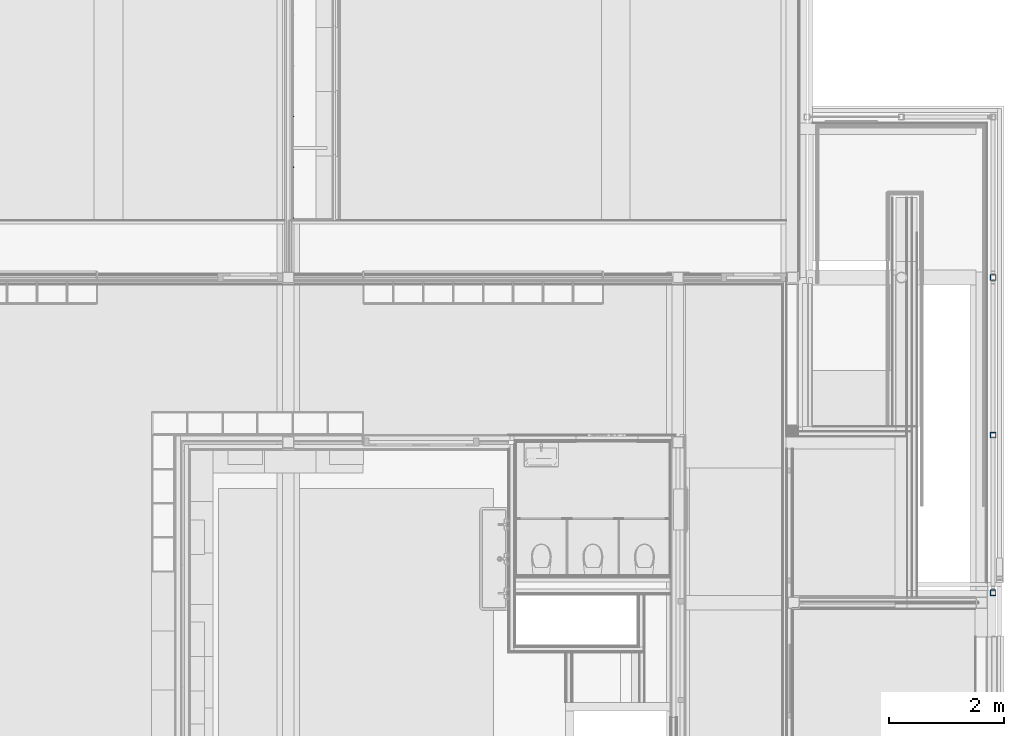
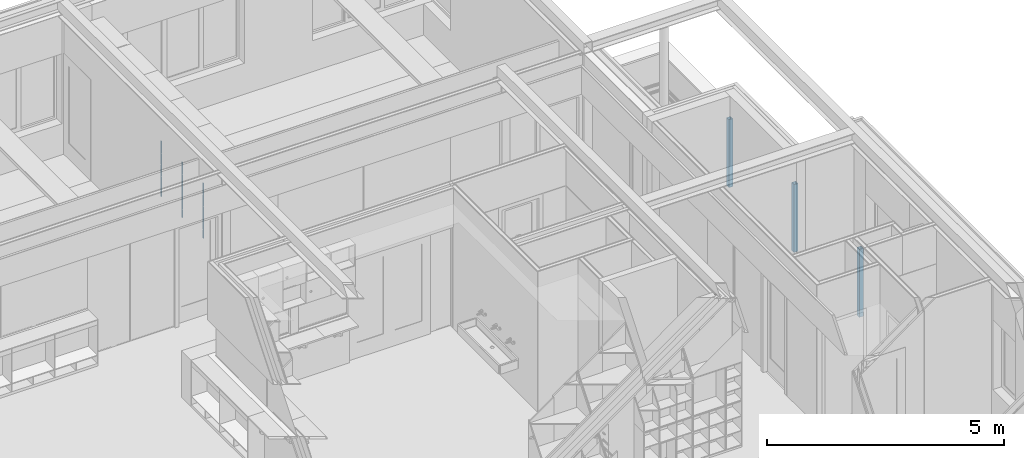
# One storey, part 10 of 137: 6 columns.
"""IFC2X3 building model written with IfcOpenShell, lengths in millimetres."""

from ifc_helpers import new_model, entity, si_unit, converted_unit, derived_unit, money_unit, direction, frame, origin_with_axes, place, context, subcontext, project, spatial, faceted_brep, material, type_object, element, save


model = new_model("IFC2X3")

# Units and contexts
model_context = context("Model", 3, precision=0.01, world=origin_with_axes(), true_north=direction((0.0, 1.0)))
body_context = subcontext(model_context, "Body", "Model", "MODEL_VIEW")
ifc_project = project(units=[si_unit("LENGTHUNIT", "METRE", prefix="MILLI"), si_unit("AREAUNIT", "SQUARE_METRE"), si_unit("VOLUMEUNIT", "CUBIC_METRE"), converted_unit("PLANEANGLEUNIT", "DEGREE", entity("IfcPlaneAngleMeasure", 0.0174532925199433), si_unit("PLANEANGLEUNIT", "RADIAN"), dimensions=[0, 0, 0, 0, 0, 0, 0]), money_unit("EUR"), converted_unit("TIMEUNIT", "Year", entity("IfcTimeMeasure", 31556926.0), si_unit("TIMEUNIT", "SECOND"), dimensions=[0, 0, 1, 0, 0, 0, 0]), si_unit("MASSUNIT", "GRAM", prefix="KILO"), si_unit("THERMODYNAMICTEMPERATUREUNIT", "DEGREE_CELSIUS"), si_unit("LUMINOUSINTENSITYUNIT", "LUMEN"), si_unit("ENERGYUNIT", "JOULE", prefix="MEGA"), derived_unit("THERMALCONDUCTANCEUNIT", [(si_unit("POWERUNIT", "WATT"), 1), (si_unit("LENGTHUNIT", "METRE"), -1), (si_unit("THERMODYNAMICTEMPERATUREUNIT", "KELVIN"), -1)]), derived_unit("SPECIFICHEATCAPACITYUNIT", [(si_unit("ENERGYUNIT", "JOULE"), 1), (si_unit("MASSUNIT", "GRAM", prefix="KILO"), -1), (si_unit("THERMODYNAMICTEMPERATUREUNIT", "KELVIN"), -1)]), derived_unit("MASSDENSITYUNIT", [(si_unit("MASSUNIT", "GRAM", prefix="KILO"), 1), (si_unit("VOLUMEUNIT", "CUBIC_METRE"), -1)])], contexts=[model_context])

# Site, building, storey
site_placement = place(None, origin_with_axes())
site = spatial("IfcSite", under=ifc_project, at=site_placement, Name="Site", CompositionType="ELEMENT")
building_placement = place(site_placement, origin_with_axes())
building = spatial("IfcBuilding", under=site, at=building_placement, Name="Naam gebouw", CompositionType="ELEMENT")
storey_placement = place(building_placement, frame((0.0, 0.0, 3960.0), z_axis=(0.0, 0.0, 1.0), x_axis=(1.0, 0.0, 0.0)))
storey = spatial("IfcBuildingStorey", under=building, at=storey_placement, Name="1e verdieping", CompositionType="ELEMENT", Elevation=3960.0)

# Columns
ifc_material_1 = material(Name="Metaal - Staal C")
column_type_1 = type_object("IfcColumnType", Name="100X100X5 100 x 100", PredefinedType="COLUMN")
for number, where, z_axis, x_axis, name in (
    (1, (29999.99999999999, 22324.99984707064, -1119.999986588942), (0.0, 0.0, 1.0), (1.0, 0.0, 0.0), "28_Kolom-x"),
    (2, (29999.99999999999, 16824.99984707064, -1119.999986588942), (0.0, 0.0, 1.0), (1.0, 0.0, 0.0), "28_Kolom-x"),
    (3, (29999.99999999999, 19574.99984707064, -1119.999986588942), (0.0, 0.0, 1.0), (1.0, 0.0, 0.0), "28_Kolom-x"),
):
    element("IfcColumn", number, at=place(storey_placement, frame(where, z_axis=z_axis, x_axis=x_axis)), inside=storey, type_object=column_type_1, material=ifc_material_1, Name=name, ObjectType="COLUMN", context=body_context, shape_type="Brep", body=[
        faceted_brep([(-50.00000000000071, -50.00000000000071, 1744.999986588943), (-50.00000000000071, -50.00000000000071, 0.0), (50.00000000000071, -50.00000000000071, 0.0), (50.00000000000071, -50.00000000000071, 1744.999986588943), (-50.00000000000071, 50.00000000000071, 1744.999986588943), (-50.00000000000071, 50.00000000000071, 0.0), (50.00000000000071, 50.00000000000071, 0.0), (-45.00000000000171, 45.00000000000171, 0.0), (-45.00000000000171, -45.00000000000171, 0.0), (45.00000000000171, -45.00000000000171, 0.0), (45.00000000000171, 45.00000000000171, 0.0), (50.00000000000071, 50.00000000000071, 1744.999986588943), (45.00000000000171, -45.00000000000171, 1744.999986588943), (-45.00000000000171, -45.00000000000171, 1744.999986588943), (-45.00000000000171, 45.00000000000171, 1744.999986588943), (45.00000000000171, 45.00000000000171, 1744.999986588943)], [[[0, 1, 2, 3]], [[4, 5, 1, 0]], [[2, 1, 5, 6], [7, 8, 9, 10]], [[3, 2, 6, 11]], [[4, 0, 3, 11], [12, 13, 14, 15]], [[11, 6, 5, 4]], [[13, 8, 7, 14]], [[12, 9, 8, 13]], [[15, 10, 9, 12]], [[14, 7, 10, 15]]]),
    ])
ifc_material_2 = material(Name="ALG - ALGEMEEN")
column_type_2 = type_object("IfcColumnType", Name="ALG - ALGEMEEN 20 x 20", PredefinedType="COLUMN")
column_1_placement = place(storey_placement, frame((17792.49942456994, 25134.99984707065, 1182.0), z_axis=(0.0, 0.0, 1.0), x_axis=(1.0, 0.0, 0.0)))
element("IfcColumn", 4, at=column_1_placement, inside=storey, type_object=column_type_2, material=ifc_material_2, Name="28_Kolom-x", ObjectType="COLUMN", context=body_context, shape_type="Brep", body=[
    faceted_brep([(-8.000000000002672, 9.99999999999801, 0.0), (-8.000000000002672, 9.99999999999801, 198.0000000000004), (9.99999999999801, 9.99999999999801, 198.0000000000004), (9.99999999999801, 9.99999999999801, 0.0), (-8.000000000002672, -10.00000000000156, 0.0), (-8.000000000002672, -10.00000000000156, 198.0000000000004), (9.99999999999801, -10.00000000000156, 198.0000000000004), (9.99999999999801, -10.00000000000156, 0.0)], [[[0, 1, 2, 3]], [[4, 5, 1, 0]], [[5, 6, 2, 1]], [[3, 2, 6, 7]], [[3, 7, 4, 0]], [[7, 6, 5, 4]]]),
    faceted_brep([(9.99999999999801, -10.00000000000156, 1418.000000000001), (9.99999999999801, -10.00000000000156, 1118.0), (9.99999999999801, 9.99999999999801, 1118.0), (9.99999999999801, 9.99999999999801, 1418.000000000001), (-8.000000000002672, -10.00000000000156, 1418.000000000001), (-8.000000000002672, -10.00000000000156, 1118.0), (-8.000000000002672, 9.99999999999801, 1118.0), (-8.000000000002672, 9.99999999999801, 1418.000000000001)], [[[0, 1, 2, 3]], [[4, 5, 1, 0]], [[5, 6, 2, 1]], [[3, 2, 6, 7]], [[0, 3, 7, 4]], [[7, 6, 5, 4]]]),
    faceted_brep([(9.99999999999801, -10.00000000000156, 1098.000000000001), (9.99999999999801, -10.00000000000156, 818.0000000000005), (9.99999999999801, 9.99999999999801, 818.0000000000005), (9.99999999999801, 9.99999999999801, 1098.000000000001), (-8.000000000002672, -10.00000000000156, 1098.000000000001), (-8.000000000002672, -10.00000000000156, 818.0000000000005), (-8.000000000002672, 9.99999999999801, 818.0000000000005), (-8.000000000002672, 9.99999999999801, 1098.000000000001)], [[[0, 1, 2, 3]], [[4, 5, 1, 0]], [[5, 6, 2, 1]], [[3, 2, 6, 7]], [[4, 0, 3, 7]], [[7, 6, 5, 4]]]),
    faceted_brep([(9.99999999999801, -10.00000000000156, 798.0000000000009), (9.99999999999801, -10.00000000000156, 518.0000000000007), (9.99999999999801, 9.99999999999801, 518.0000000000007), (9.99999999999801, 9.99999999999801, 798.0000000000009), (-8.000000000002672, -10.00000000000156, 798.0000000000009), (-8.000000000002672, -10.00000000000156, 518.0000000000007), (-8.000000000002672, 9.99999999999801, 518.0000000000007), (-8.000000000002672, 9.99999999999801, 798.0000000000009)], [[[0, 1, 2, 3]], [[4, 5, 1, 0]], [[5, 6, 2, 1]], [[3, 2, 6, 7]], [[4, 0, 3, 7]], [[7, 6, 5, 4]]]),
    faceted_brep([(9.99999999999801, -10.00000000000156, 498.0000000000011), (9.99999999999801, -10.00000000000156, 218.0), (9.99999999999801, 9.99999999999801, 218.0), (9.99999999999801, 9.99999999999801, 498.0000000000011), (-8.000000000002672, -10.00000000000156, 498.0000000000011), (-8.000000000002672, -10.00000000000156, 218.0), (-8.000000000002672, 9.99999999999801, 218.0), (-8.000000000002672, 9.99999999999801, 498.0000000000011)], [[[0, 1, 2, 3]], [[4, 5, 1, 0]], [[5, 6, 2, 1]], [[3, 2, 6, 7]], [[4, 0, 3, 7]], [[7, 6, 5, 4]]]),
])
column_2_placement = place(storey_placement, frame((17792.49942456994, 23362.99984707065, 1182.0), z_axis=(0.0, 0.0, 1.0), x_axis=(1.0, 0.0, 0.0)))
element("IfcColumn", 5, at=column_2_placement, inside=storey, type_object=column_type_2, material=ifc_material_2, Name="28_Kolom-x", ObjectType="COLUMN", context=body_context, shape_type="Brep", body=[
    faceted_brep([(-8.000000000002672, 9.99999999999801, 0.0), (-8.000000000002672, 9.99999999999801, 198.0000000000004), (9.99999999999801, 9.99999999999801, 198.0000000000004), (9.99999999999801, 9.99999999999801, 0.0), (-8.000000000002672, -10.00000000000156, 0.0), (-8.000000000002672, -10.00000000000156, 198.0000000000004), (9.99999999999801, -10.00000000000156, 198.0000000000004), (9.99999999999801, -10.00000000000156, 0.0)], [[[0, 1, 2, 3]], [[4, 5, 1, 0]], [[5, 6, 2, 1]], [[3, 2, 6, 7]], [[3, 7, 4, 0]], [[7, 6, 5, 4]]]),
    faceted_brep([(9.99999999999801, -10.00000000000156, 1418.000000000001), (9.99999999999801, -10.00000000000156, 1118.0), (9.99999999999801, 9.99999999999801, 1118.0), (9.99999999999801, 9.99999999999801, 1418.000000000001), (-8.000000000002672, -10.00000000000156, 1418.000000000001), (-8.000000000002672, -10.00000000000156, 1118.0), (-8.000000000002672, 9.99999999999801, 1118.0), (-8.000000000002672, 9.99999999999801, 1418.000000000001)], [[[0, 1, 2, 3]], [[4, 5, 1, 0]], [[5, 6, 2, 1]], [[3, 2, 6, 7]], [[0, 3, 7, 4]], [[7, 6, 5, 4]]]),
    faceted_brep([(9.99999999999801, -10.00000000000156, 1098.000000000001), (9.99999999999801, -10.00000000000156, 818.0000000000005), (9.99999999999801, 9.99999999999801, 818.0000000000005), (9.99999999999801, 9.99999999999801, 1098.000000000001), (-8.000000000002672, -10.00000000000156, 1098.000000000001), (-8.000000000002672, -10.00000000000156, 818.0000000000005), (-8.000000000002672, 9.99999999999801, 818.0000000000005), (-8.000000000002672, 9.99999999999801, 1098.000000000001)], [[[0, 1, 2, 3]], [[4, 5, 1, 0]], [[5, 6, 2, 1]], [[3, 2, 6, 7]], [[4, 0, 3, 7]], [[7, 6, 5, 4]]]),
    faceted_brep([(9.99999999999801, -10.00000000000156, 798.0000000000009), (9.99999999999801, -10.00000000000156, 518.0000000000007), (9.99999999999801, 9.99999999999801, 518.0000000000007), (9.99999999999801, 9.99999999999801, 798.0000000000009), (-8.000000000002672, -10.00000000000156, 798.0000000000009), (-8.000000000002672, -10.00000000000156, 518.0000000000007), (-8.000000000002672, 9.99999999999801, 518.0000000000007), (-8.000000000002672, 9.99999999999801, 798.0000000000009)], [[[0, 1, 2, 3]], [[4, 5, 1, 0]], [[5, 6, 2, 1]], [[3, 2, 6, 7]], [[4, 0, 3, 7]], [[7, 6, 5, 4]]]),
    faceted_brep([(9.99999999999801, -10.00000000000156, 498.0000000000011), (9.99999999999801, -10.00000000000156, 218.0), (9.99999999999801, 9.99999999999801, 218.0), (9.99999999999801, 9.99999999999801, 498.0000000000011), (-8.000000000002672, -10.00000000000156, 498.0000000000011), (-8.000000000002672, -10.00000000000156, 218.0), (-8.000000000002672, 9.99999999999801, 218.0), (-8.000000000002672, 9.99999999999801, 498.0000000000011)], [[[0, 1, 2, 3]], [[4, 5, 1, 0]], [[5, 6, 2, 1]], [[3, 2, 6, 7]], [[4, 0, 3, 7]], [[7, 6, 5, 4]]]),
])
column_3_placement = place(storey_placement, frame((17792.49942456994, 24248.99984707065, 1182.0), z_axis=(0.0, 0.0, 1.0), x_axis=(1.0, 0.0, 0.0)))
element("IfcColumn", 6, at=column_3_placement, inside=storey, type_object=column_type_2, material=ifc_material_2, Name="28_Kolom-x", ObjectType="COLUMN", context=body_context, shape_type="Brep", body=[
    faceted_brep([(-8.000000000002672, 9.99999999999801, 0.0), (-8.000000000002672, 9.99999999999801, 198.0000000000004), (9.99999999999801, 9.99999999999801, 198.0000000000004), (9.99999999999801, 9.99999999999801, 0.0), (-8.000000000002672, -10.00000000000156, 0.0), (-8.000000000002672, -10.00000000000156, 198.0000000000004), (9.99999999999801, -10.00000000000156, 198.0000000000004), (9.99999999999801, -10.00000000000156, 0.0)], [[[0, 1, 2, 3]], [[4, 5, 1, 0]], [[5, 6, 2, 1]], [[3, 2, 6, 7]], [[3, 7, 4, 0]], [[7, 6, 5, 4]]]),
    faceted_brep([(9.99999999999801, -10.00000000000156, 1418.000000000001), (9.99999999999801, -10.00000000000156, 1118.0), (9.99999999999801, 9.99999999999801, 1118.0), (9.99999999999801, 9.99999999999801, 1418.000000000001), (-8.000000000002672, -10.00000000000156, 1418.000000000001), (-8.000000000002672, -10.00000000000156, 1118.0), (-8.000000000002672, 9.99999999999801, 1118.0), (-8.000000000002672, 9.99999999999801, 1418.000000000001)], [[[0, 1, 2, 3]], [[4, 5, 1, 0]], [[5, 6, 2, 1]], [[3, 2, 6, 7]], [[0, 3, 7, 4]], [[7, 6, 5, 4]]]),
    faceted_brep([(9.99999999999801, -10.00000000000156, 1098.000000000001), (9.99999999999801, -10.00000000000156, 818.0000000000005), (9.99999999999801, 9.99999999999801, 818.0000000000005), (9.99999999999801, 9.99999999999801, 1098.000000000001), (-8.000000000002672, -10.00000000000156, 1098.000000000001), (-8.000000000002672, -10.00000000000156, 818.0000000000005), (-8.000000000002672, 9.99999999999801, 818.0000000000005), (-8.000000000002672, 9.99999999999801, 1098.000000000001)], [[[0, 1, 2, 3]], [[4, 5, 1, 0]], [[5, 6, 2, 1]], [[3, 2, 6, 7]], [[4, 0, 3, 7]], [[7, 6, 5, 4]]]),
    faceted_brep([(9.99999999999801, -10.00000000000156, 798.0000000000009), (9.99999999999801, -10.00000000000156, 518.0000000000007), (9.99999999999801, 9.99999999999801, 518.0000000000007), (9.99999999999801, 9.99999999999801, 798.0000000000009), (-8.000000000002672, -10.00000000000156, 798.0000000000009), (-8.000000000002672, -10.00000000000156, 518.0000000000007), (-8.000000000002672, 9.99999999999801, 518.0000000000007), (-8.000000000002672, 9.99999999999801, 798.0000000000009)], [[[0, 1, 2, 3]], [[4, 5, 1, 0]], [[5, 6, 2, 1]], [[3, 2, 6, 7]], [[4, 0, 3, 7]], [[7, 6, 5, 4]]]),
    faceted_brep([(9.99999999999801, -10.00000000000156, 498.0000000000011), (9.99999999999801, -10.00000000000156, 218.0), (9.99999999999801, 9.99999999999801, 218.0), (9.99999999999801, 9.99999999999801, 498.0000000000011), (-8.000000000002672, -10.00000000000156, 498.0000000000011), (-8.000000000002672, -10.00000000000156, 218.0), (-8.000000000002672, 9.99999999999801, 218.0), (-8.000000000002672, 9.99999999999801, 498.0000000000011)], [[[0, 1, 2, 3]], [[4, 5, 1, 0]], [[5, 6, 2, 1]], [[3, 2, 6, 7]], [[4, 0, 3, 7]], [[7, 6, 5, 4]]]),
])

save(model, "model.ifc")
